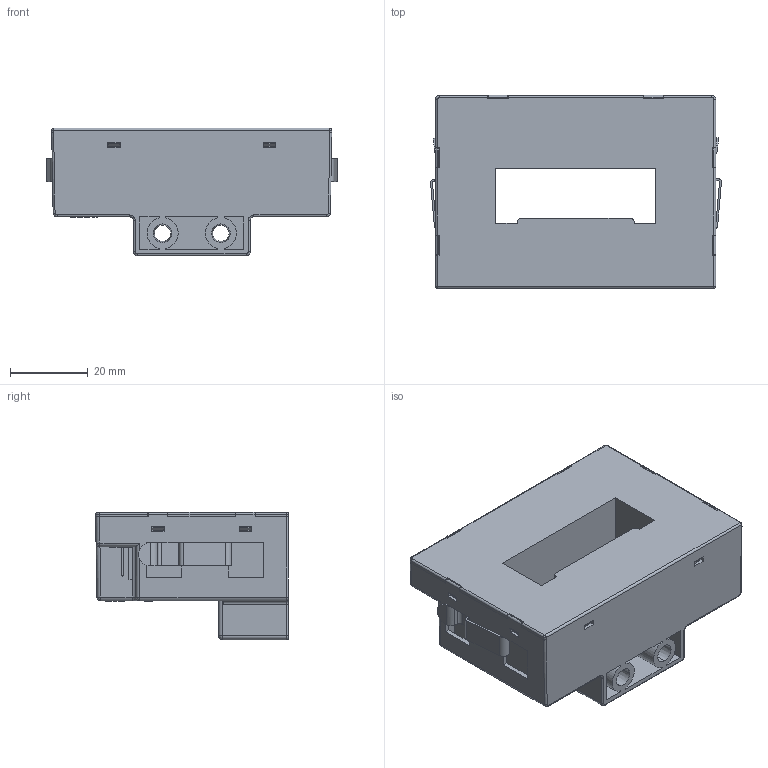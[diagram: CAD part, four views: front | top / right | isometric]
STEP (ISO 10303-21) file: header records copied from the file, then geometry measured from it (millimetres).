
FILE_DESCRIPTION(('Creo Elements/Direct Modeling STEP Export'),'2;1');
FILE_NAME('HOP 200-SB.stp','2015-05-22T16:48:18',(''),(''),'Creo Elements/Direct Modeling STEP processor for AP214 (Solid Model)','Creo Elements/Direct Modeling 18.1B 29-Sep-2012 (C) Parametric Technology GmbH','');
FILE_SCHEMA(('AUTOMOTIVE_DESIGN { 1 0 10303 214 1 1 1 1 }'));
Length unit declared in the file: millimetre
Products named in the file (1): HOP-200-SB
Bounding box: 74.78 x 49.61 x 32.8 mm (x, y, z)
Volume: 62828.9 mm3; surface area: 23696.1 mm2
Topology: 1 solids, 3 shells, 811 faces, 2228 edges, 1441 vertices
Faces by surface type: plane 661, cylinder 118, cone 12, sphere 7, torus 7, bspline 4, revolution 2
Entity records: 32813 total; most frequent: CARTESIAN_POINT 5426, ORIENTED_EDGE 4442, DIRECTION 4028, EDGE_CURVE 2221, VECTOR 1948, LINE 1948, VERTEX_POINT 1441, AXIS2_PLACEMENT_3D 1039
